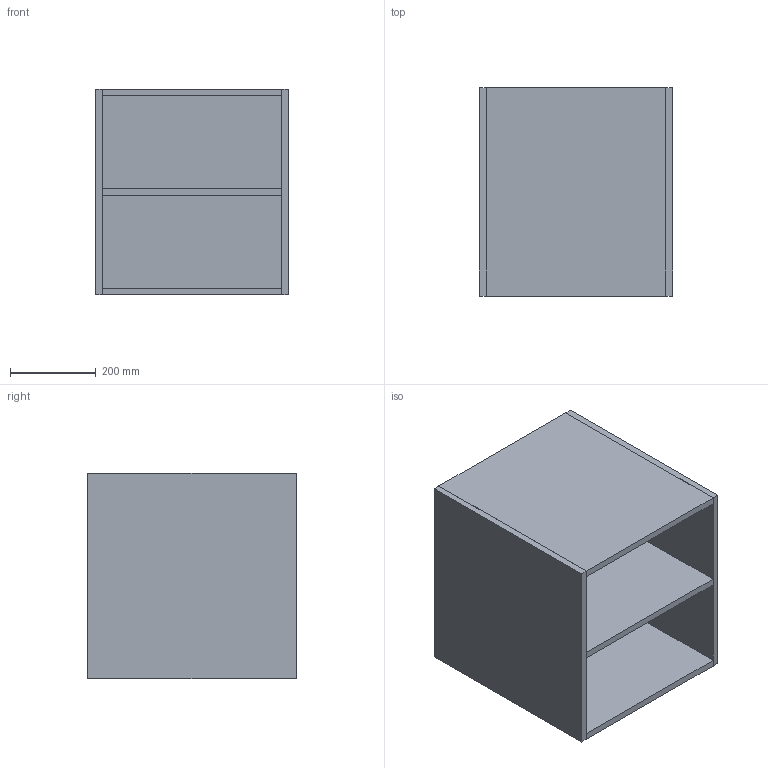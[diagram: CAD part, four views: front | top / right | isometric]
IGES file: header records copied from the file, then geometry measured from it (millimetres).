
Start section: Data from Parasolid IGES Translator 19.0.9, Copyright(c) 2006 Siemens PL M Software. All Rights Reserved.
Global section: file name: noorth-SI-H 48 D 51 W 45_8591.igs; native system: By Siemens PLM Incorporated; preprocessor: XPlus GENERIC/IGES 19.0.9; author: Noname; organization: Noname; date: 20200601.111801; units: metre
Bounding box: 450.01 x 486.06 x 480 mm (x, y, z)
Volume: 17753627.7 mm3; surface area: 2680255.1 mm2
Topology: 6 solids, 6 shells, 36 faces, 72 edges, 48 vertices
Faces by surface type: plane 36
